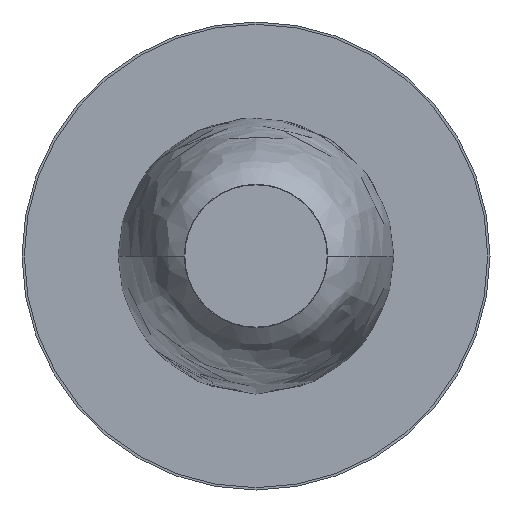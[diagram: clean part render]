
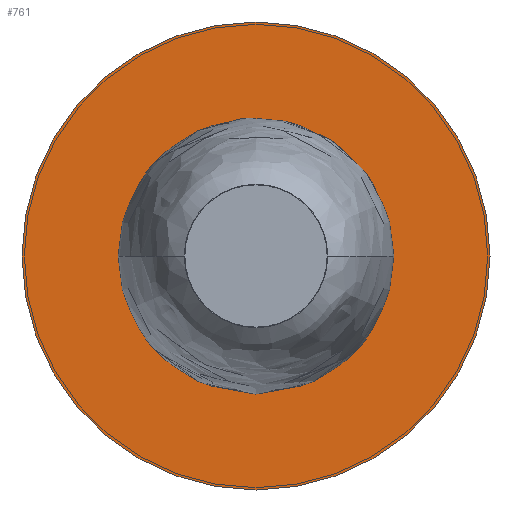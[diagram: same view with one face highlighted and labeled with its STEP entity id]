
A CAD part, front view. The second image highlights one B-rep face of the part: STEP entity #761.
In plain terms, the highlighted planar face has unit normal (0, -1, 0).
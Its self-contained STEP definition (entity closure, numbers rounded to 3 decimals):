
#1 = CARTESIAN_POINT ( 'NONE',  ( 1816.946, 1107.96, 0. ) ) ;
#35 = CARTESIAN_POINT ( 'NONE',  ( 1816.946, 1107.96, -25.394 ) ) ;
#166 = FACE_BOUND ( 'NONE', #290, .T. ) ;
#175 = DIRECTION ( 'NONE',  ( 0., -1., 0. ) ) ;
#208 = CARTESIAN_POINT ( 'NONE',  ( 1816.946, 1107.96, 25.394 ) ) ;
#290 = EDGE_LOOP ( 'NONE', ( #439, #1271 ) ) ;
#324 = VERTEX_POINT ( 'NONE', #362 ) ;
#362 = CARTESIAN_POINT ( 'NONE',  ( 1816.946, 1107.96, -365.054 ) ) ;
#396 = CIRCLE ( 'NONE', #901, 365.054 ) ;
#416 = DIRECTION ( 'NONE',  ( 0., 0., -1. ) ) ;
#423 = EDGE_LOOP ( 'NONE', ( #454, #435 ) ) ;
#435 = ORIENTED_EDGE ( 'NONE', *, *, #877, .T. ) ;
#439 = ORIENTED_EDGE ( 'NONE', *, *, #778, .F. ) ;
#454 = ORIENTED_EDGE ( 'NONE', *, *, #1148, .T. ) ;
#465 = EDGE_CURVE ( 'NONE', #1078, #753, #725, .T. ) ;
#466 = CARTESIAN_POINT ( 'NONE',  ( 1816.946, 1107.96, 365.054 ) ) ;
#597 = DIRECTION ( 'NONE',  ( 0., -1., 0. ) ) ;
#651 = VERTEX_POINT ( 'NONE', #466 ) ;
#706 = DIRECTION ( 'NONE',  ( 0., 0., -1. ) ) ;
#725 = CIRCLE ( 'NONE', #1133, 25.394 ) ;
#729 = DIRECTION ( 'NONE',  ( 0., -1., 0. ) ) ;
#734 = DIRECTION ( 'NONE',  ( 0., 0., -1. ) ) ;
#745 = FACE_OUTER_BOUND ( 'NONE', #423, .T. ) ;
#753 = VERTEX_POINT ( 'NONE', #35 ) ;
#761 = ADVANCED_FACE ( 'NONE', ( #745, #166 ), #788, .T. ) ;
#778 = EDGE_CURVE ( 'NONE', #753, #1078, #1060, .T. ) ;
#788 = PLANE ( 'NONE',  #816 ) ;
#815 = DIRECTION ( 'NONE',  ( 0., -1., 0. ) ) ;
#816 = AXIS2_PLACEMENT_3D ( 'NONE', #1324, #597, #819 ) ;
#819 = DIRECTION ( 'NONE',  ( 0., 0., -1. ) ) ;
#877 = EDGE_CURVE ( 'NONE', #651, #324, #919, .T. ) ;
#901 = AXIS2_PLACEMENT_3D ( 'NONE', #958, #966, #416 ) ;
#919 = CIRCLE ( 'NONE', #1046, 365.054 ) ;
#929 = DIRECTION ( 'NONE',  ( 0., 0., -1. ) ) ;
#958 = CARTESIAN_POINT ( 'NONE',  ( 1816.946, 1107.96, 0. ) ) ;
#966 = DIRECTION ( 'NONE',  ( 0., -1., 0. ) ) ;
#1044 = CARTESIAN_POINT ( 'NONE',  ( 1816.946, 1107.96, 0. ) ) ;
#1046 = AXIS2_PLACEMENT_3D ( 'NONE', #1044, #815, #706 ) ;
#1052 = CARTESIAN_POINT ( 'NONE',  ( 1816.946, 1107.96, 0. ) ) ;
#1060 = CIRCLE ( 'NONE', #1285, 25.394 ) ;
#1078 = VERTEX_POINT ( 'NONE', #208 ) ;
#1133 = AXIS2_PLACEMENT_3D ( 'NONE', #1, #729, #734 ) ;
#1148 = EDGE_CURVE ( 'NONE', #324, #651, #396, .T. ) ;
#1271 = ORIENTED_EDGE ( 'NONE', *, *, #465, .F. ) ;
#1285 = AXIS2_PLACEMENT_3D ( 'NONE', #1052, #175, #929 ) ;
#1324 = CARTESIAN_POINT ( 'NONE',  ( 1791.552, 1107.96, 0. ) ) ;
